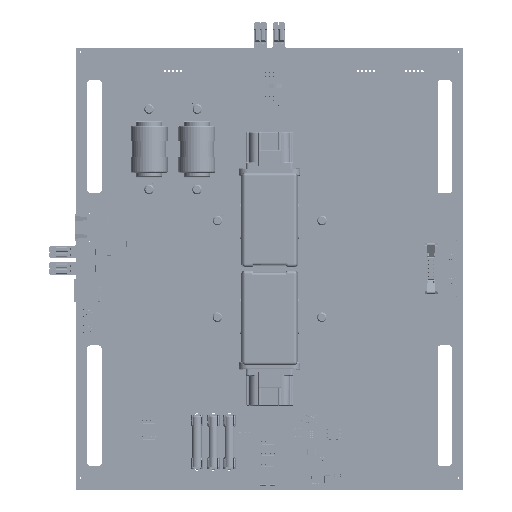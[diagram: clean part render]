
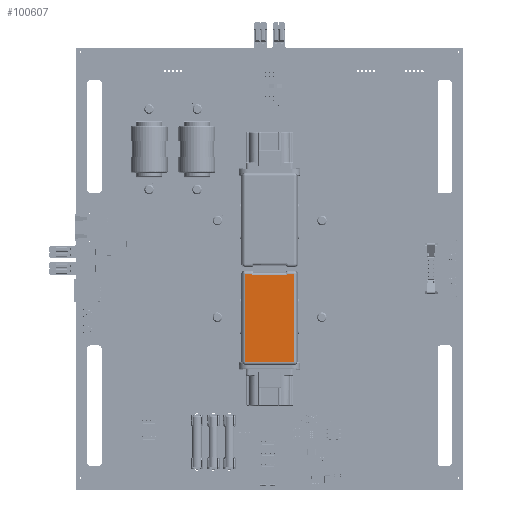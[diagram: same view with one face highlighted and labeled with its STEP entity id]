
A CAD part, top view. The second image highlights one B-rep face of the part: STEP entity #100607.
In plain terms, the highlighted planar face has unit normal (0, 0, 1) as drawn and (0, 1, 0) by its records, which use the part's own axes.
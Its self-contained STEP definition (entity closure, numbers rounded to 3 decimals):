
#100037 = VERTEX_POINT('',#100038);
#100038 = CARTESIAN_POINT('',(-15.186,23.,-26.964));
#100060 = EDGE_CURVE('',#100061,#100037,#100063,.T.);
#100061 = VERTEX_POINT('',#100062);
#100062 = CARTESIAN_POINT('',(-15.186,23.,-82.036));
#100063 = LINE('',#100064,#100065);
#100064 = CARTESIAN_POINT('',(-15.186,23.,-82.036));
#100065 = VECTOR('',#100066,1.);
#100066 = DIRECTION('',(0.,0.,1.));
#100120 = EDGE_CURVE('',#100121,#100061,#100123,.T.);
#100121 = VERTEX_POINT('',#100122);
#100122 = CARTESIAN_POINT('',(-11.279,23.,-82.036));
#100123 = LINE('',#100124,#100125);
#100124 = CARTESIAN_POINT('',(-11.279,23.,-82.036));
#100125 = VECTOR('',#100126,1.);
#100126 = DIRECTION('',(-1.,0.,0.));
#100355 = VERTEX_POINT('',#100356);
#100356 = CARTESIAN_POINT('',(11.279,23.,-82.036));
#100433 = EDGE_CURVE('',#100434,#100355,#100436,.T.);
#100434 = VERTEX_POINT('',#100435);
#100435 = CARTESIAN_POINT('',(15.186,23.,-82.036));
#100436 = LINE('',#100437,#100438);
#100437 = CARTESIAN_POINT('',(15.186,23.,-82.036));
#100438 = VECTOR('',#100439,1.);
#100439 = DIRECTION('',(-1.,0.,0.));
#100484 = EDGE_CURVE('',#100485,#100434,#100487,.T.);
#100485 = VERTEX_POINT('',#100486);
#100486 = CARTESIAN_POINT('',(15.186,23.,-26.964));
#100487 = LINE('',#100488,#100489);
#100488 = CARTESIAN_POINT('',(15.186,23.,-26.964));
#100489 = VECTOR('',#100490,1.);
#100490 = DIRECTION('',(0.,0.,-1.));
#100597 = EDGE_CURVE('',#100485,#100037,#100598,.T.);
#100598 = LINE('',#100599,#100600);
#100599 = CARTESIAN_POINT('',(15.186,23.,-26.964));
#100600 = VECTOR('',#100601,1.);
#100601 = DIRECTION('',(-1.,0.,0.));
#100607 = ADVANCED_FACE('',(#100608),#100647,.T.);
#100608 = FACE_BOUND('',#100609,.F.);
#100609 = EDGE_LOOP('',(#100610,#100623,#100624,#100625,#100626,#100627,
    #100628,#100641));
#100610 = ORIENTED_EDGE('',*,*,#100611,.F.);
#100611 = EDGE_CURVE('',#100355,#100612,#100614,.T.);
#100612 = VERTEX_POINT('',#100613);
#100613 = CARTESIAN_POINT('',(10.107,23.,-81.136));
#100614 = B_SPLINE_CURVE_WITH_KNOTS('',3,(#100615,#100616,#100617,
    #100618,#100619,#100620,#100621,#100622),.UNSPECIFIED.,.F.,.F.,(4,1,
    1,1,1,4),(0.,0.2,0.4,0.6,0.8,1.),.QUASI_UNIFORM_KNOTS.);
#100615 = CARTESIAN_POINT('',(11.279,23.,-82.036));
#100616 = CARTESIAN_POINT('',(11.225,23.,
    -81.947));
#100617 = CARTESIAN_POINT('',(11.104,23.,
    -81.782));
#100618 = CARTESIAN_POINT('',(10.875,23.,
    -81.567));
#100619 = CARTESIAN_POINT('',(10.628,23.,
    -81.397));
#100620 = CARTESIAN_POINT('',(10.376,23.,
    -81.261));
#100621 = CARTESIAN_POINT('',(10.197,22.999,
    -81.177));
#100622 = CARTESIAN_POINT('',(10.107,23.,-81.136));
#100623 = ORIENTED_EDGE('',*,*,#100433,.F.);
#100624 = ORIENTED_EDGE('',*,*,#100484,.F.);
#100625 = ORIENTED_EDGE('',*,*,#100597,.T.);
#100626 = ORIENTED_EDGE('',*,*,#100060,.F.);
#100627 = ORIENTED_EDGE('',*,*,#100120,.F.);
#100628 = ORIENTED_EDGE('',*,*,#100629,.F.);
#100629 = EDGE_CURVE('',#100630,#100121,#100632,.T.);
#100630 = VERTEX_POINT('',#100631);
#100631 = CARTESIAN_POINT('',(-10.107,23.,-81.136));
#100632 = B_SPLINE_CURVE_WITH_KNOTS('',3,(#100633,#100634,#100635,
    #100636,#100637,#100638,#100639,#100640),.UNSPECIFIED.,.F.,.F.,(4,1,
    1,1,1,4),(0.,0.2,0.4,0.6,0.8,1.),.QUASI_UNIFORM_KNOTS.);
#100633 = CARTESIAN_POINT('',(-10.107,23.,-81.136));
#100634 = CARTESIAN_POINT('',(-10.197,22.999,
    -81.177));
#100635 = CARTESIAN_POINT('',(-10.375,23.,
    -81.26));
#100636 = CARTESIAN_POINT('',(-10.627,23.,
    -81.397));
#100637 = CARTESIAN_POINT('',(-10.876,23.,
    -81.567));
#100638 = CARTESIAN_POINT('',(-11.104,23.,
    -81.782));
#100639 = CARTESIAN_POINT('',(-11.225,23.,
    -81.947));
#100640 = CARTESIAN_POINT('',(-11.279,23.,-82.036));
#100641 = ORIENTED_EDGE('',*,*,#100642,.F.);
#100642 = EDGE_CURVE('',#100612,#100630,#100643,.T.);
#100643 = LINE('',#100644,#100645);
#100644 = CARTESIAN_POINT('',(10.107,23.,-81.136));
#100645 = VECTOR('',#100646,1.);
#100646 = DIRECTION('',(-1.,0.,0.));
#100647 = PLANE('',#100648);
#100648 = AXIS2_PLACEMENT_3D('',#100649,#100650,#100651);
#100649 = CARTESIAN_POINT('',(-17.15,23.,-83.721));
#100650 = DIRECTION('',(0.,1.,0.));
#100651 = DIRECTION('',(0.,-0.,1.));
